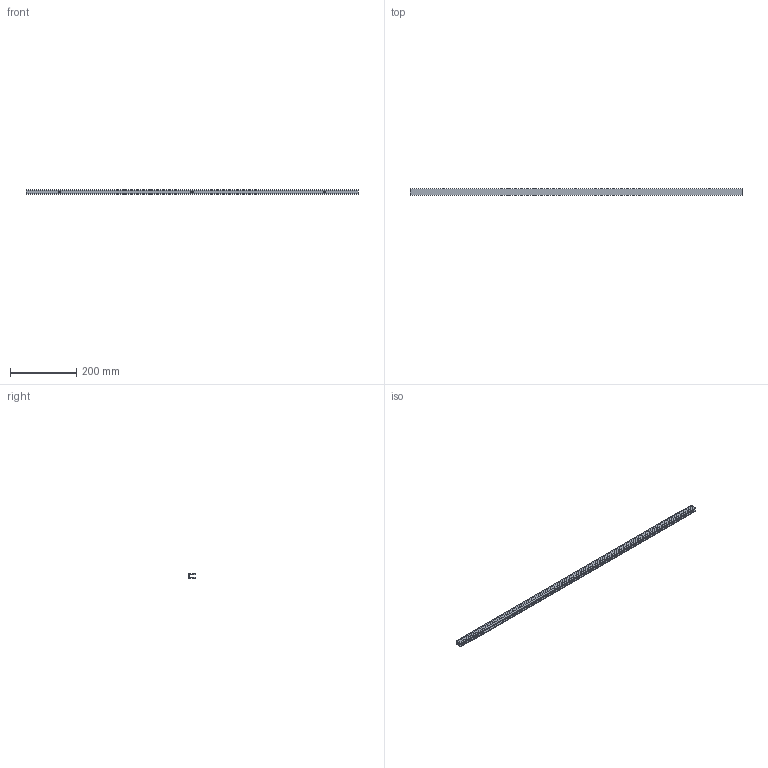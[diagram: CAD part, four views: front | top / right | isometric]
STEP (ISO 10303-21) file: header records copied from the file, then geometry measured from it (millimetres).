
FILE_DESCRIPTION (( 'STEP AP203' ), '1' );
FILE_NAME ('17.M07A10000 M7A.STEP', '2025-08-02T01:18:24', ( '' ), ( '' ), 'SwSTEP 2.0', 'SolidWorks 2020', '' );
FILE_SCHEMA (( 'CONFIG_CONTROL_DESIGN' ));
Length unit declared in the file: millimetre
Products named in the file (4): KC-0006-0045.stp; KC-0006-0002.stp; KC-0006-0003.stp; 17.M07A10000 M7A
Assembly tree (3 placements, depth 2):
  17.M07A10000 M7A
    KC-0006-0045.stp
    KC-0006-0002.stp
    KC-0006-0003.stp
Bounding box: 1000 x 20 x 12.5 mm (x, y, z)
Volume: 107564.4 mm3; surface area: 177004 mm2
Topology: 7 solids, 7 shells, 106 faces, 276 edges, 184 vertices
Faces by surface type: plane 82, cylinder 18, cone 6
Entity records: 3646 total; most frequent: CARTESIAN_POINT 572, ORIENTED_EDGE 552, DIRECTION 548, EDGE_CURVE 276, LINE 228, VECTOR 228, VERTEX_POINT 184, AXIS2_PLACEMENT_3D 160
